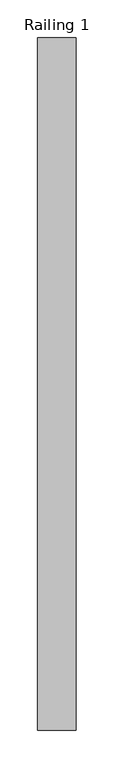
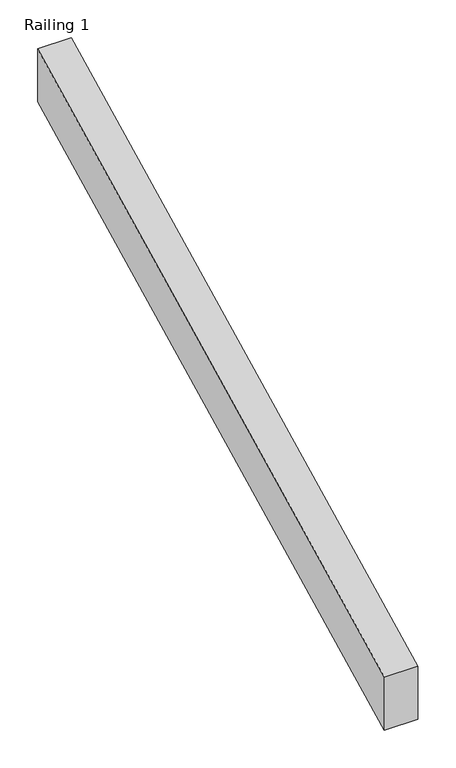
"""IFC4 building model written with IfcOpenShell, lengths in millimetres: railing geometry, Railing 1."""

import ifcopenshell
import ifcopenshell.guid

model = None  # the IFC model being written
_history = None  # IfcOwnerHistory: only IFC2X3 demands one
_inside = {}  # id of a spatial element -> (the spatial element, [elements in it])
_under = {}  # id of a project, library or spatial element -> (it, [spatial elements below it])
_declared = {}  # id of a project -> (the project, [libraries it declares])
_typed = {}  # id of a type object -> (the type object, [elements of that type])
_made_of = {}  # id of a material, layer set ... -> (it, [elements and type objects made of it])


def new_model(schema):
    """Start an empty IFC model of exactly this schema.

    Asked for "IFC4X3", IfcOpenShell would pick the latest addendum, in which some entities
    have other attributes; the version numbers below select the first issue.
    IFC2X3 requires an IfcOwnerHistory on every rooted entity: one is made here for all.
    """
    global model, _history
    if schema == "IFC4X3":
        model = ifcopenshell.file(schema_version=(4, 3, 0, 0))
    else:
        model = ifcopenshell.file(schema=schema)
    _inside.clear()
    _under.clear()
    _declared.clear()
    _typed.clear()
    _made_of.clear()
    _history = None
    if model.schema == "IFC2X3":
        org = make("IfcOrganization", Name="unknown")
        user = make(
            "IfcPersonAndOrganization",
            ThePerson=make("IfcPerson", FamilyName="unknown"),
            TheOrganization=org,
        )
        app = make(
            "IfcApplication",
            ApplicationDeveloper=org,
            Version="unknown",
            ApplicationFullName="unknown",
            ApplicationIdentifier="unknown",
        )
        _history = make(
            "IfcOwnerHistory",
            OwningUser=user,
            OwningApplication=app,
            ChangeAction="ADDED",
            CreationDate=0,
        )
    return model


def make(cls, **values):
    """One entity of the class cls with the attributes given. An attribute that is None is left unset."""
    return model.create_entity(
        cls, **{name: value for name, value in values.items() if value is not None}
    )


def rooted(cls, **values):
    """An entity with a GlobalId (a new one), such as an element, a storey or a relation."""
    return make(cls, GlobalId=ifcopenshell.guid.new(), OwnerHistory=_history, **values)


def si_unit(unit_type, name, prefix=None):
    """IfcSIUnit, for example si_unit("LENGTHUNIT", "METRE", prefix="MILLI")."""
    return make("IfcSIUnit", UnitType=unit_type, Prefix=prefix, Name=name)


def assignment(units):
    """IfcUnitAssignment: the units of a project."""
    return None if units is None else make("IfcUnitAssignment", Units=units)


def point(xyz):
    """IfcCartesianPoint."""
    return None if xyz is None else make("IfcCartesianPoint", Coordinates=xyz)


def direction(xyz):
    """IfcDirection."""
    return None if xyz is None else make("IfcDirection", DirectionRatios=xyz)


def frame(location, z_axis=None, x_axis=None):
    """IfcAxis2Placement3D, a coordinate frame: its origin and axes. An axis left out is left unset."""
    return make(
        "IfcAxis2Placement3D",
        Location=point(location),
        Axis=direction(z_axis),
        RefDirection=direction(x_axis),
    )


def origin():
    """The frame at (0, 0, 0) with its axes left unset."""
    return frame((0.0, 0.0, 0.0))


def place(relative_to, where):
    """IfcLocalPlacement: puts the frame where relative to a parent placement (None: the world)."""
    return make(
        "IfcLocalPlacement", PlacementRelTo=relative_to, RelativePlacement=where
    )


def context(
    kind, dimensions, precision=None, world=None, true_north=None, identifier=None
):
    """IfcGeometricRepresentationContext, for example the 3D "Model" context."""
    return make(
        "IfcGeometricRepresentationContext",
        ContextIdentifier=identifier,
        ContextType=kind,
        CoordinateSpaceDimension=dimensions,
        Precision=precision,
        WorldCoordinateSystem=world,
        TrueNorth=true_north,
    )


def project(units=None, contexts=None):
    """IfcProject with its units and contexts."""
    return rooted(
        "IfcProject",
        Name="project",
        RepresentationContexts=contexts,
        UnitsInContext=assignment(units),
    )


def spatial(cls, under=None, at=None, **own):
    """A site, building, storey or space (cls), placed at a placement, below another one or the project."""
    s = rooted(cls, ObjectPlacement=at, **own)
    if under is not None:
        _under.setdefault(under.id(), (under, []))[1].append(s)
    return s


def polyline(points):
    """IfcPolyline through the points."""
    return make("IfcPolyline", Points=[point(p) for p in points])


def outline(outer, holes=None, kind="AREA"):
    """IfcArbitraryClosedProfileDef: a profile drawn as a closed curve; with holes, ...WithVoids."""
    if holes is None:
        return make("IfcArbitraryClosedProfileDef", ProfileType=kind, OuterCurve=outer)
    return make(
        "IfcArbitraryProfileDefWithVoids",
        ProfileType=kind,
        OuterCurve=outer,
        InnerCurves=holes,
    )


def extrude(swept, where, along, depth):
    """IfcExtrudedAreaSolid: the profile swept, set in the frame where, extruded along a direction by depth."""
    return make(
        "IfcExtrudedAreaSolid",
        SweptArea=swept,
        Position=where,
        ExtrudedDirection=direction(along),
        Depth=depth,
    )


def shape(context_of_items, identifier, shape_type, items):
    """IfcShapeRepresentation: the items that make up one representation, for example the "Body"."""
    return make(
        "IfcShapeRepresentation",
        ContextOfItems=context_of_items,
        RepresentationIdentifier=identifier,
        RepresentationType=shape_type,
        Items=items,
    )


def source(mapping_origin, context_of_items, identifier, shape_type, items):
    """IfcRepresentationMap: a shape defined once, which mapped items show again and again."""
    return make(
        "IfcRepresentationMap",
        MappingOrigin=mapping_origin,
        MappedRepresentation=shape(context_of_items, identifier, shape_type, items),
    )


def transform(
    local_origin,
    x_axis=None,
    y_axis=None,
    z_axis=None,
    scale=None,
    scale2=None,
    scale3=None,
    uniform=True,
):
    """IfcCartesianTransformationOperator3D, or its non-uniform kind. x_axis, y_axis, z_axis: its Axis1, 2, 3."""
    if uniform:
        return make(
            "IfcCartesianTransformationOperator3D",
            Axis1=direction(x_axis),
            Axis2=direction(y_axis),
            LocalOrigin=point(local_origin),
            Scale=scale,
            Axis3=direction(z_axis),
        )
    return make(
        "IfcCartesianTransformationOperator3DnonUniform",
        Axis1=direction(x_axis),
        Axis2=direction(y_axis),
        LocalOrigin=point(local_origin),
        Scale=scale,
        Axis3=direction(z_axis),
        Scale2=scale2,
        Scale3=scale3,
    )


def mapped(mapping_source, mapping_target):
    """IfcMappedItem: shows the shape of a source again, moved by a transform."""
    return make(
        "IfcMappedItem", MappingSource=mapping_source, MappingTarget=mapping_target
    )


def made_of(thing, what):
    """Note that an element or type object is made of a material, layer set ...; save() writes the relation."""
    if what is not None:
        _made_of.setdefault(what.id(), (what, []))[1].append(thing)
    return thing


def element(
    cls,
    number,
    at=None,
    inside=None,
    cuts=None,
    type_object=None,
    material=None,
    context=None,
    identifier="Body",
    shape_type=None,
    held_by="IfcProductDefinitionShape",
    body=None,
    shapes=None,
    **own,
):
    """One element of the class cls, such as IfcWall. Its Tag is "e" and its number.

    at: its placement. inside: the storey or other place that contains it. cuts: it is an
    opening in that element (IfcRelVoidsElement). A single representation is given by context,
    identifier, shape_type and body (its items); several are given by shapes. held_by: the class
    of the entity that holds the representations. save() writes the other relations.
    """
    e = rooted(cls, Tag="e%d" % number, ObjectPlacement=at, **own)
    if body is not None:
        shapes = [shape(context, identifier, shape_type, body)]
    if shapes is not None:
        e.Representation = make(held_by, Representations=shapes)
    if inside is not None:
        _inside.setdefault(inside.id(), (inside, []))[1].append(e)
    if cuts is not None:
        rooted(
            "IfcRelVoidsElement", RelatingBuildingElement=cuts, RelatedOpeningElement=e
        )
    if type_object is not None:
        _typed.setdefault(type_object.id(), (type_object, []))[1].append(e)
    return made_of(e, material)


def aggregate(whole, parts):
    """IfcRelAggregates: a whole, such as a stair, and the parts it consists of."""
    return rooted("IfcRelAggregates", RelatingObject=whole, RelatedObjects=parts)


def save(model, path):
    """Write the relations noted so far, then the file.

    IfcRelAggregates (storeys below a building ...), IfcRelContainedInSpatialStructure (elements
    in a storey), IfcRelDefinesByType, IfcRelAssociatesMaterial and IfcRelDeclares: one each for
    every whole, place, type object, material and project.
    """
    for whole, parts in _under.values():
        aggregate(whole, parts)
    for where, things in _inside.values():
        rooted(
            "IfcRelContainedInSpatialStructure",
            RelatedElements=things,
            RelatingStructure=where,
        )
    for kind, things in _typed.values():
        rooted("IfcRelDefinesByType", RelatedObjects=things, RelatingType=kind)
    for what, things in _made_of.values():
        rooted("IfcRelAssociatesMaterial", RelatedObjects=things, RelatingMaterial=what)
    for by, libraries in _declared.values():
        rooted("IfcRelDeclares", RelatingContext=by, RelatedDefinitions=libraries)
    model.write(path)


def railing_1_26023e8a(model_context):
    return source(origin(), model_context, "Body", "SweptSolid", [
        extrude(outline(polyline([(595555.8230064, 981.6058101), (595555.8230064, 1066.8), (596470.2230064, 1524.0), (596470.2230064, 1438.8058101), (595555.8230064, 981.6058101)])), frame((83126.4199803, 0.0, 0.0), z_axis=(1.0, 0.0, 0.0), x_axis=(0.0, 1.0, 0.0)), (0.0, 0.0, 1.0), 50.8),
    ])


if __name__ == "__main__":
    model = new_model("IFC4")
    model_context = context("Model", 3, world=origin())
    ifc_project = project(units=[si_unit("LENGTHUNIT", "METRE", prefix="MILLI")], contexts=[model_context])
    site = spatial("IfcSite", under=ifc_project)
    building = spatial("IfcBuilding", under=site)
    placement = place(None, origin())
    railing_1_shape = railing_1_26023e8a(model_context)
    element("IfcRailing", 1, ObjectType="Railing 1", at=placement, inside=building, context=model_context, shape_type="MappedRepresentation", body=[
        mapped(railing_1_shape, transform((0.0, 0.0, 0.0), x_axis=(1.0, 0.0, 0.0), y_axis=(0.0, 1.0, 0.0), z_axis=(0.0, 0.0, 1.0))),
    ])
    save(model, "model.ifc")
